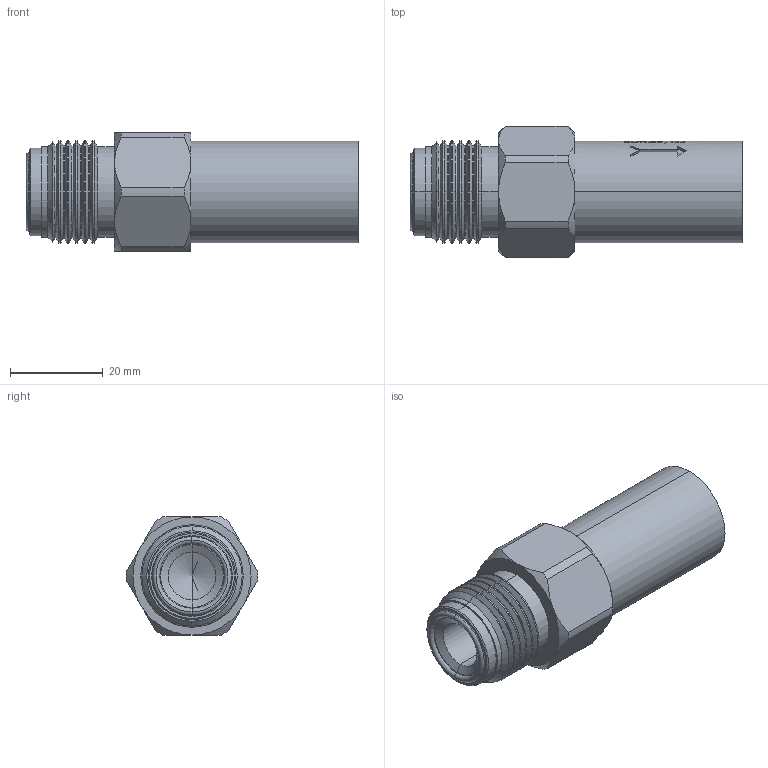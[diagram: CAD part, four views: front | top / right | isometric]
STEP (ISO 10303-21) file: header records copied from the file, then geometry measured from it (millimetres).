
FILE_DESCRIPTION (( 'STEP AP203' ), '1' );
FILE_NAME ('IRV-8V.STEP', '2020-08-13T15:09:26', ( '' ), ( '' ), 'SwSTEP 2.0', 'SolidWorks 2020', '' );
FILE_SCHEMA (( 'CONFIG_CONTROL_DESIGN' ));
Length unit declared in the file: inch
Products named in the file (2): Part9^IRV-8V; IRV-8V
Assembly tree (1 placements, depth 2):
  IRV-8V
    Part9^IRV-8V
Bounding box: 71.44 x 28.31 x 25.4 mm (x, y, z)
Volume: 23948.3 mm3; surface area: 7802.2 mm2
Topology: 1 solids, 1 shells, 325 faces, 816 edges, 518 vertices
Faces by surface type: plane 142, bspline 70, cylinder 61, cone 46, torus 6
Entity records: 14511 total; most frequent: CARTESIAN_POINT 7086, ORIENTED_EDGE 1624, DIRECTION 1300, EDGE_CURVE 812, VERTEX_POINT 518, AXIS2_PLACEMENT_3D 491, EDGE_LOOP 354, ADVANCED_FACE 325
